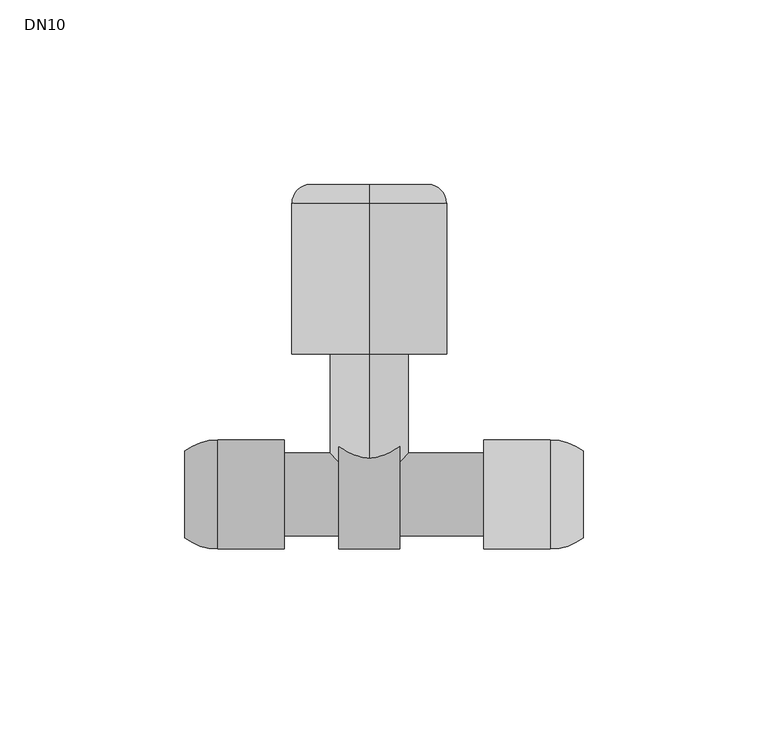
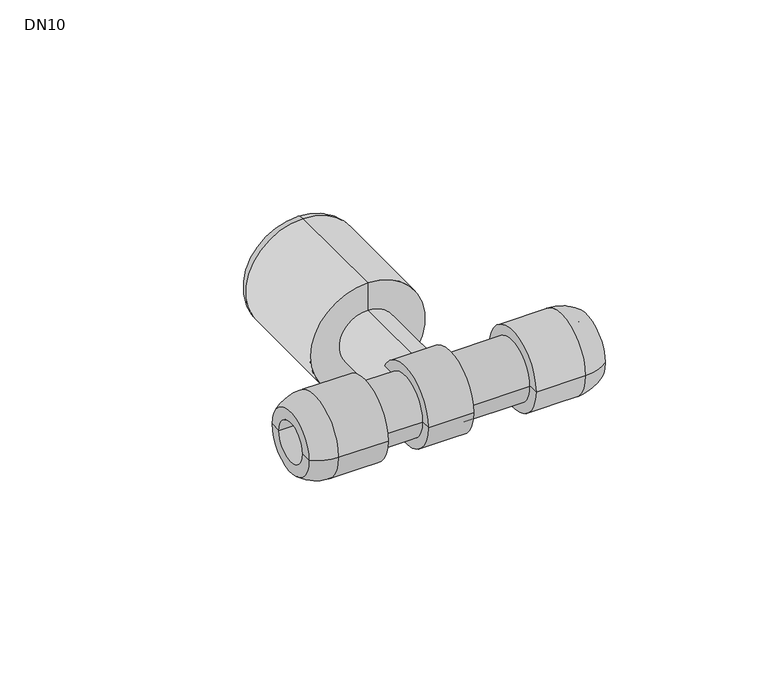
"""IFC4 building model written with IfcOpenShell, lengths in millimetres: valve geometry, Wavin_PipeAccessory_Hep2oStopcock : DN10."""

from ifc_helpers import new_model, si_unit, point, frame, origin, place, context, project, spatial, polyline, circle_curve, ellipse_curve, trimmed, source, transform, mapped, element, save
from ifc_brep_helpers import plane_surface, cylinder_surface, revolved_surface, advanced_brep


def dn10_14278ebe(model_context):
    return source(origin(), model_context, "Body", "AdvancedBrep", [
        advanced_brep(
        [(31.0, 7.5, 0.0), (31.0, -7.5, 0.0), (58.0, -7.5, 0.0), (58.0, 7.5, 0.0), (31.0, 14.8, 0.0), (31.0, -14.8, 0.0), (49.0, 14.8, 0.0), (49.0, -14.8, 0.0), (58.0, 11.7490425, 0.0), (58.0, -11.7490425, 0.0)],
        [
            (0, 1, circle_curve(frame((31.0, 0.0, 0.0), z_axis=(-1.0, 0.0, 0.0), x_axis=(0.0, -1.0, 0.0)), 7.5)),
            (1, 2),
            (2, 3, circle_curve(frame((58.0, 0.0, 0.0), z_axis=(1.0, 0.0, 0.0), x_axis=(0.0, -1.0, 0.0)), 7.5)),
            (3, 0),
            (1, 0, circle_curve(frame((31.0, 0.0, 0.0), z_axis=(-1.0, 0.0, 0.0), x_axis=(0.0, -1.0, 0.0)), 7.5)),
            (3, 2, circle_curve(frame((58.0, 0.0, 0.0), z_axis=(1.0, 0.0, 0.0), x_axis=(0.0, -1.0, 0.0)), 7.5)),
            (4, 5, circle_curve(frame((31.0, 0.0, 0.0), z_axis=(-1.0, 0.0, 0.0), x_axis=(0.0, -1.0, 0.0)), 14.8)),
            (5, 1),
            (0, 4),
            (5, 4, circle_curve(frame((31.0, 0.0, 0.0), z_axis=(-1.0, 0.0, 0.0), x_axis=(0.0, -1.0, 0.0)), 14.8)),
            (6, 7, circle_curve(frame((49.0, 0.0, 0.0), z_axis=(-1.0, 0.0, 0.0), x_axis=(0.0, -1.0, 0.0)), 14.8)),
            (7, 5),
            (4, 6),
            (7, 6, circle_curve(frame((49.0, 0.0, 0.0), z_axis=(-1.0, 0.0, 0.0), x_axis=(0.0, -1.0, 0.0)), 14.8)),
            (8, 9, circle_curve(frame((58.0, 0.0, 0.0), z_axis=(-1.0, 0.0, 0.0), x_axis=(0.0, -1.0, 0.0)), 11.7490425)),
            (9, 7, circle_curve(frame((49.0, 0.0, 0.0), z_axis=(0.0, 0.0, -1.0), x_axis=(-1.0, 0.0, 0.0)), 14.8)),
            (6, 8, circle_curve(frame((49.0, 0.0, 0.0), z_axis=(0.0, 0.0, -1.0), x_axis=(-1.0, 0.0, 0.0)), 14.8)),
            (9, 8, circle_curve(frame((58.0, 0.0, 0.0), z_axis=(-1.0, 0.0, 0.0), x_axis=(0.0, -1.0, 0.0)), 11.7490425)),
            (2, 9),
            (8, 3),
        ],
        [
            revolved_surface(polyline([(58.0, -7.5, 0.0), (31.0, -7.5, 0.0)]), (-1969.0, 0.0, 0.0), (1.0, 0.0, 0.0)),
            plane_surface(frame((31.0, 0.0, 0.0), z_axis=(-1.0, 0.0, 0.0), x_axis=(0.0, -1.0, 0.0))),
            cylinder_surface(frame((-1969.0, 0.0, 0.0), z_axis=(1.0, 0.0, 0.0), x_axis=(0.0, -1.0, 0.0)), 14.8),
            revolved_surface(trimmed(ellipse_curve(frame((49.0, 0.0, 0.0), z_axis=(0.0, 0.0, 1.0), x_axis=(-1.0, 0.0, 0.0)), 14.8, 14.8), [point((49.0, -14.8, 0.0))], [point((58.0, -11.7490425, 0.0))], True, "CARTESIAN"), (-1969.0, 0.0, 0.0), (1.0, 0.0, 0.0)),
            plane_surface(frame((58.0, 0.0, 0.0), z_axis=(1.0, 0.0, 0.0), x_axis=(0.0, -1.0, 0.0))),
        ],
        [
            (0, [[1, 2, 3, 4]]),
            (0, [[5, -4, 6, -2]]),
            (1, [[7, 8, -1, 9]]),
            (1, [[10, -9, -5, -8]]),
            (2, [[11, 12, -7, 13]]),
            (2, [[14, -13, -10, -12]]),
            (3, [[15, 16, -11, 17]]),
            (3, [[18, -17, -14, -16]]),
            (4, [[-3, 19, -15, 20]]),
            (4, [[-6, -20, -18, -19]]),
        ],
    ),
        advanced_brep(
        [(-23.0, -7.5, 0.0), (-23.0, 7.5, 0.0), (-50.0, 7.5, 0.0), (-50.0, -7.5, 0.0), (-23.0, -14.8, 0.0), (-23.0, 14.8, 0.0), (-41.0, -14.8, 0.0), (-41.0, 14.8, 0.0), (-50.0, -11.7490425, 0.0), (-50.0, 11.7490425, 0.0)],
        [
            (0, 1, circle_curve(frame((-23.0, 0.0, 0.0), z_axis=(1.0, 0.0, 0.0), x_axis=(0.0, 1.0, 0.0)), 7.5)),
            (1, 2),
            (2, 3, circle_curve(frame((-50.0, 0.0, 0.0), z_axis=(-1.0, 0.0, 0.0), x_axis=(0.0, 1.0, 0.0)), 7.5)),
            (3, 0),
            (1, 0, circle_curve(frame((-23.0, 0.0, 0.0), z_axis=(1.0, 0.0, 0.0), x_axis=(0.0, 1.0, 0.0)), 7.5)),
            (3, 2, circle_curve(frame((-50.0, 0.0, 0.0), z_axis=(-1.0, 0.0, 0.0), x_axis=(0.0, 1.0, 0.0)), 7.5)),
            (4, 5, circle_curve(frame((-23.0, 0.0, 0.0), z_axis=(1.0, 0.0, 0.0), x_axis=(0.0, 1.0, 0.0)), 14.8)),
            (5, 1),
            (0, 4),
            (5, 4, circle_curve(frame((-23.0, 0.0, 0.0), z_axis=(1.0, 0.0, 0.0), x_axis=(0.0, 1.0, 0.0)), 14.8)),
            (6, 7, circle_curve(frame((-41.0, 0.0, 0.0), z_axis=(1.0, 0.0, 0.0), x_axis=(0.0, 1.0, 0.0)), 14.8)),
            (7, 5),
            (4, 6),
            (7, 6, circle_curve(frame((-41.0, 0.0, 0.0), z_axis=(1.0, 0.0, 0.0), x_axis=(0.0, 1.0, 0.0)), 14.8)),
            (8, 9, circle_curve(frame((-50.0, 0.0, 0.0), z_axis=(1.0, 0.0, 0.0), x_axis=(0.0, 1.0, 0.0)), 11.7490425)),
            (9, 7, circle_curve(frame((-41.0, 0.0, 0.0), z_axis=(0.0, 0.0, -1.0), x_axis=(1.0, 0.0, 0.0)), 14.8)),
            (6, 8, circle_curve(frame((-41.0, 0.0, 0.0), z_axis=(0.0, 0.0, -1.0), x_axis=(1.0, 0.0, 0.0)), 14.8)),
            (9, 8, circle_curve(frame((-50.0, 0.0, 0.0), z_axis=(1.0, 0.0, 0.0), x_axis=(0.0, 1.0, 0.0)), 11.7490425)),
            (2, 9),
            (8, 3),
        ],
        [
            revolved_surface(polyline([(-50.0, 7.5, 0.0), (-23.0, 7.5, 0.0)]), (1977.0, 0.0, 0.0), (-1.0, 0.0, 0.0)),
            plane_surface(frame((-23.0, 0.0, 0.0), z_axis=(1.0, 0.0, 0.0), x_axis=(0.0, 1.0, 0.0))),
            cylinder_surface(frame((1977.0, 0.0, 0.0), z_axis=(-1.0, 0.0, 0.0), x_axis=(0.0, 1.0, 0.0)), 14.8),
            revolved_surface(trimmed(ellipse_curve(frame((-41.0, 0.0, 0.0), z_axis=(0.0, 0.0, 1.0), x_axis=(1.0, 0.0, 0.0)), 14.8, 14.8), [point((-41.0, 14.8, 0.0))], [point((-50.0, 11.7490425, 0.0))], True, "CARTESIAN"), (1977.0, 0.0, 0.0), (-1.0, 0.0, 0.0)),
            plane_surface(frame((-50.0, 0.0, 0.0), z_axis=(-1.0, 0.0, 0.0), x_axis=(0.0, 1.0, 0.0))),
        ],
        [
            (0, [[1, 2, 3, 4]]),
            (0, [[5, -4, 6, -2]]),
            (1, [[7, 8, -1, 9]]),
            (1, [[10, -9, -5, -8]]),
            (2, [[11, 12, -7, 13]]),
            (2, [[14, -13, -10, -12]]),
            (3, [[15, 16, -11, 17]]),
            (3, [[18, -17, -14, -16]]),
            (4, [[-3, 19, -15, 20]]),
            (4, [[-6, -20, -18, -19]]),
        ],
    ),
        advanced_brep(
        [(0.0, 79.0, -21.0), (0.0, 79.0, 21.0), (0.0, 84.0, 16.0), (0.0, 84.0, -16.0), (0.0, 38.0, -21.0), (0.0, 38.0, 21.0), (0.0, 38.0, -10.5), (0.0, 38.0, 10.5), (0.0, 0.0, -10.5), (0.0, 0.0, 10.5), (0.0, 0.0, 0.0), (0.0, 84.0, 0.0)],
        [
            (0, 1, circle_curve(frame((0.0, 79.0, 0.0), z_axis=(0.0, 1.0, 0.0), x_axis=(0.0, 0.0, 1.0)), 21.0)),
            (1, 2, circle_curve(frame((0.0, 79.0, 16.0), z_axis=(-1.0, 0.0, 0.0), x_axis=(0.0, 1.0, 0.0)), 5.0)),
            (2, 3, circle_curve(frame((0.0, 84.0, 0.0), z_axis=(0.0, -1.0, 0.0), x_axis=(0.0, 0.0, 1.0)), 16.0)),
            (3, 0, circle_curve(frame((0.0, 79.0, -16.0), z_axis=(-1.0, 0.0, 0.0), x_axis=(0.0, 1.0, 0.0)), 5.0)),
            (1, 0, circle_curve(frame((0.0, 79.0, 0.0), z_axis=(0.0, 1.0, 0.0), x_axis=(0.0, 0.0, 1.0)), 21.0)),
            (3, 2, circle_curve(frame((0.0, 84.0, 0.0), z_axis=(0.0, -1.0, 0.0), x_axis=(0.0, 0.0, 1.0)), 16.0)),
            (4, 5, circle_curve(frame((0.0, 38.0, 0.0), z_axis=(0.0, 1.0, 0.0), x_axis=(0.0, 0.0, 1.0)), 21.0)),
            (5, 1),
            (0, 4),
            (5, 4, circle_curve(frame((0.0, 38.0, 0.0), z_axis=(0.0, 1.0, 0.0), x_axis=(0.0, 0.0, 1.0)), 21.0)),
            (6, 7, circle_curve(frame((0.0, 38.0, 0.0), z_axis=(0.0, 1.0, 0.0), x_axis=(0.0, 0.0, 1.0)), 10.5)),
            (7, 5),
            (4, 6),
            (7, 6, circle_curve(frame((0.0, 38.0, 0.0), z_axis=(0.0, 1.0, 0.0), x_axis=(0.0, 0.0, 1.0)), 10.5)),
            (8, 9, circle_curve(frame((0.0, 0.0, 0.0), z_axis=(0.0, 1.0, 0.0), x_axis=(0.0, 0.0, 1.0)), 10.5)),
            (9, 7),
            (6, 8),
            (9, 8, circle_curve(frame((0.0, 0.0, 0.0), z_axis=(0.0, 1.0, 0.0), x_axis=(0.0, 0.0, 1.0)), 10.5)),
            (10, 9),
            (8, 10),
            (2, 11),
            (11, 3),
        ],
        [
            revolved_surface(trimmed(ellipse_curve(frame((0.0, 79.0, 16.0), z_axis=(1.0, 0.0, 0.0), x_axis=(0.0, 1.0, 0.0)), 5.0, 5.0), [point((0.0, 84.0, 16.0))], [point((0.0, 79.0, 21.0))], True, "CARTESIAN"), (0.0, 75.4203996, 0.0), (0.0, -1.0, 0.0)),
            cylinder_surface(frame((0.0, 75.4203996, 0.0), z_axis=(0.0, -1.0, 0.0), x_axis=(0.0, 0.0, 1.0)), 21.0),
            plane_surface(frame((0.0, 38.0, 0.0), z_axis=(0.0, -1.0, 0.0), x_axis=(0.0, 0.0, 1.0))),
            cylinder_surface(frame((0.0, 75.4203996, 0.0), z_axis=(0.0, -1.0, 0.0), x_axis=(0.0, 0.0, 1.0)), 10.5),
            plane_surface(frame((0.0, 0.0, 0.0), z_axis=(0.0, -1.0, 0.0), x_axis=(0.0, 0.0, 1.0))),
            plane_surface(frame((0.0, 84.0, 0.0), z_axis=(0.0, 1.0, 0.0), x_axis=(0.0, 0.0, 1.0))),
        ],
        [
            (0, [[1, 2, 3, 4]]),
            (0, [[5, -4, 6, -2]]),
            (1, [[7, 8, -1, 9]]),
            (1, [[10, -9, -5, -8]]),
            (2, [[11, 12, -7, 13]]),
            (2, [[14, -13, -10, -12]]),
            (3, [[15, 16, -11, 17]]),
            (3, [[18, -17, -14, -16]]),
            (4, [[19, -15, 20]]),
            (4, [[-20, -18, -19]]),
            (5, [[-3, 21, 22]]),
            (5, [[-6, -22, -21]]),
        ],
    ),
        advanced_brep(
        [(-23.0, 0.0, 0.0), (-23.0, 11.2, 0.0), (-23.0, -11.2, 0.0), (31.0, -11.2, 0.0), (31.0, 11.2, 0.0), (31.0, 0.0, 0.0), (8.2320085, -11.2, 0.0), (8.2320085, 11.2, 0.0), (8.2320085, -14.8, 0.0), (8.2320085, 14.8, 0.0), (-8.2320085, -14.8, 0.0), (-8.2320085, 14.8, 0.0), (-8.2320085, -11.2, 0.0), (-8.2320085, 11.2, 0.0)],
        [
            (0, 1),
            (1, 2, circle_curve(frame((-23.0, 0.0, 0.0), z_axis=(-1.0, 0.0, 0.0), x_axis=(0.0, 1.0, 0.0)), 11.2)),
            (2, 0),
            (2, 1, circle_curve(frame((-23.0, 0.0, 0.0), z_axis=(-1.0, 0.0, 0.0), x_axis=(0.0, 1.0, 0.0)), 11.2)),
            (3, 4, circle_curve(frame((31.0, 0.0, 0.0), z_axis=(1.0, 0.0, 0.0), x_axis=(0.0, 1.0, 0.0)), 11.2)),
            (4, 5),
            (5, 3),
            (4, 3, circle_curve(frame((31.0, 0.0, 0.0), z_axis=(1.0, 0.0, 0.0), x_axis=(0.0, 1.0, 0.0)), 11.2)),
            (6, 7, circle_curve(frame((8.2320085, 0.0, 0.0), z_axis=(1.0, 0.0, 0.0), x_axis=(0.0, 1.0, 0.0)), 11.2)),
            (7, 4),
            (3, 6),
            (7, 6, circle_curve(frame((8.2320085, 0.0, 0.0), z_axis=(1.0, 0.0, 0.0), x_axis=(0.0, 1.0, 0.0)), 11.2)),
            (8, 9, circle_curve(frame((8.2320085, 0.0, 0.0), z_axis=(1.0, 0.0, 0.0), x_axis=(0.0, 1.0, 0.0)), 14.8)),
            (9, 7),
            (6, 8),
            (9, 8, circle_curve(frame((8.2320085, 0.0, 0.0), z_axis=(1.0, 0.0, 0.0), x_axis=(0.0, 1.0, 0.0)), 14.8)),
            (10, 11, circle_curve(frame((-8.2320085, 0.0, 0.0), z_axis=(1.0, 0.0, 0.0), x_axis=(0.0, 1.0, 0.0)), 14.8)),
            (11, 9),
            (8, 10),
            (11, 10, circle_curve(frame((-8.2320085, 0.0, 0.0), z_axis=(1.0, 0.0, 0.0), x_axis=(0.0, 1.0, 0.0)), 14.8)),
            (12, 13, circle_curve(frame((-8.2320085, 0.0, 0.0), z_axis=(1.0, 0.0, 0.0), x_axis=(0.0, 1.0, 0.0)), 11.2)),
            (13, 11),
            (10, 12),
            (13, 12, circle_curve(frame((-8.2320085, 0.0, 0.0), z_axis=(1.0, 0.0, 0.0), x_axis=(0.0, 1.0, 0.0)), 11.2)),
            (1, 13),
            (12, 2),
        ],
        [
            plane_surface(frame((-23.0, 0.0, 0.0), z_axis=(-1.0, 0.0, 0.0), x_axis=(0.0, 1.0, 0.0))),
            plane_surface(frame((31.0, 0.0, 0.0), z_axis=(1.0, 0.0, 0.0), x_axis=(0.0, 1.0, 0.0))),
            cylinder_surface(frame((-23.0, 0.0, 0.0), z_axis=(-1.0, 0.0, 0.0), x_axis=(0.0, 1.0, 0.0)), 11.2),
            plane_surface(frame((8.2320085, 0.0, 0.0), z_axis=(1.0, 0.0, 0.0), x_axis=(0.0, 1.0, 0.0))),
            cylinder_surface(frame((-23.0, 0.0, 0.0), z_axis=(-1.0, 0.0, 0.0), x_axis=(0.0, 1.0, 0.0)), 14.8),
            plane_surface(frame((-8.2320085, 0.0, 0.0), z_axis=(-1.0, 0.0, 0.0), x_axis=(0.0, 1.0, 0.0))),
        ],
        [
            (0, [[1, 2, 3]]),
            (0, [[-3, 4, -1]]),
            (1, [[5, 6, 7]]),
            (1, [[8, -7, -6]]),
            (2, [[9, 10, -5, 11]]),
            (2, [[12, -11, -8, -10]]),
            (3, [[13, 14, -9, 15]]),
            (3, [[16, -15, -12, -14]]),
            (4, [[17, 18, -13, 19]]),
            (4, [[20, -19, -16, -18]]),
            (5, [[21, 22, -17, 23]]),
            (5, [[24, -23, -20, -22]]),
            (2, [[-2, 25, -21, 26]]),
            (2, [[-4, -26, -24, -25]]),
        ],
    ),
    ])


if __name__ == "__main__":
    model = new_model("IFC4")
    model_context = context("Model", 3, world=origin())
    ifc_project = project(units=[si_unit("LENGTHUNIT", "METRE", prefix="MILLI")], contexts=[model_context])
    site = spatial("IfcSite", under=ifc_project)
    building = spatial("IfcBuilding", under=site)
    placement = place(None, origin())
    dn10_shape = dn10_14278ebe(model_context)
    element("IfcValve", 1, ObjectType="Wavin_PipeAccessory_Hep2oStopcock : DN10", at=placement, inside=building, context=model_context, shape_type="MappedRepresentation", body=[
        mapped(dn10_shape, transform((0.0, 0.0, 0.0), x_axis=(1.0, 0.0, 0.0), y_axis=(0.0, 1.0, 0.0), z_axis=(0.0, 0.0, 1.0))),
    ])
    save(model, "model.ifc")
